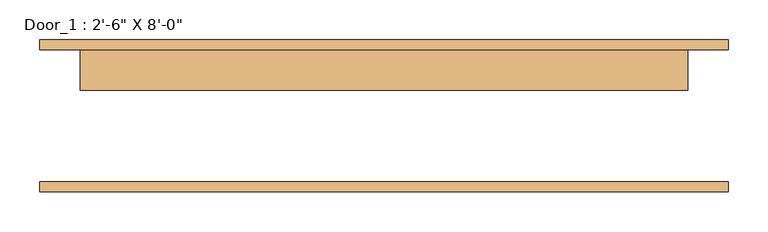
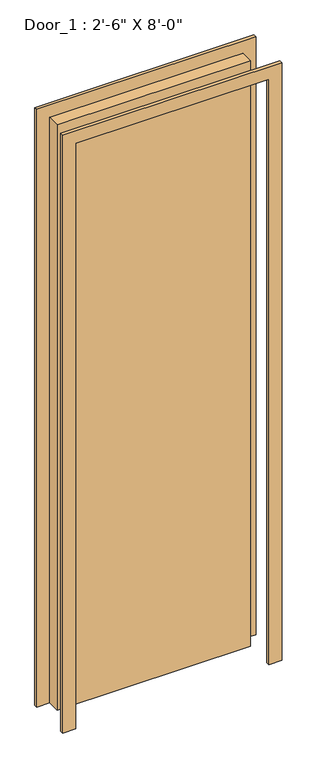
"""IFC4 building model written with IfcOpenShell, lengths in millimetres: door geometry."""

from ifc_helpers import new_model, si_unit, frame, origin, origin_with_axes, place, context, project, spatial, polyline, outline, extrude, source, transform, mapped, element, save


def door_5d21c0d5(model_context):
    return source(origin(), model_context, "Body", "SweptSolid", [
        extrude(outline(polyline([(2489.2, -431.8), (0.0, -431.8), (0.0, -381.0), (2438.4, -381.0), (2438.4, 381.0), (0.0, 381.0), (0.0, 431.8), (2489.2, 431.8), (2489.2, -431.8)])), frame((0.0, 82.55, 0.0), z_axis=(0.0, 1.0, 0.0), x_axis=(0.0, 0.0, 1.0)), (0.0, 0.0, 1.0), 12.7),
        extrude(outline(polyline([(2489.2, 431.8), (2489.2, -431.8), (0.0, -431.8), (0.0, -381.0), (2438.4, -381.0), (2438.4, 381.0), (0.0, 381.0), (0.0, 431.8), (2489.2, 431.8)])), frame((0.0, -95.25, 0.0), z_axis=(0.0, 1.0, 0.0), x_axis=(0.0, 0.0, 1.0)), (0.0, 0.0, 1.0), 12.7),
        extrude(outline(polyline([(381.0, 31.75), (-381.0, 31.75), (-381.0, 82.55), (381.0, 82.55), (381.0, 31.75)])), origin_with_axes(), (0.0, 0.0, 1.0), 2438.4),
    ])


if __name__ == "__main__":
    model = new_model("IFC4")
    model_context = context("Model", 3, world=origin())
    ifc_project = project(units=[si_unit("LENGTHUNIT", "METRE", prefix="MILLI")], contexts=[model_context])
    site = spatial("IfcSite", under=ifc_project)
    building = spatial("IfcBuilding", under=site)
    placement = place(None, origin())
    door_shape = door_5d21c0d5(model_context)
    element("IfcDoor", 1, ObjectType="Door_1 : 2'-6\" X 8'-0\"", at=placement, inside=building, context=model_context, shape_type="MappedRepresentation", body=[
        mapped(door_shape, transform((0.0, 0.0, 0.0), x_axis=(1.0, 0.0, 0.0), y_axis=(0.0, 1.0, 0.0), z_axis=(0.0, 0.0, 1.0))),
    ])
    save(model, "model.ifc")
